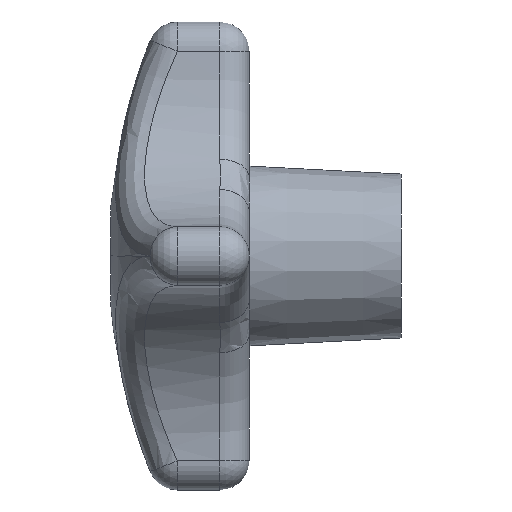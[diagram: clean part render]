
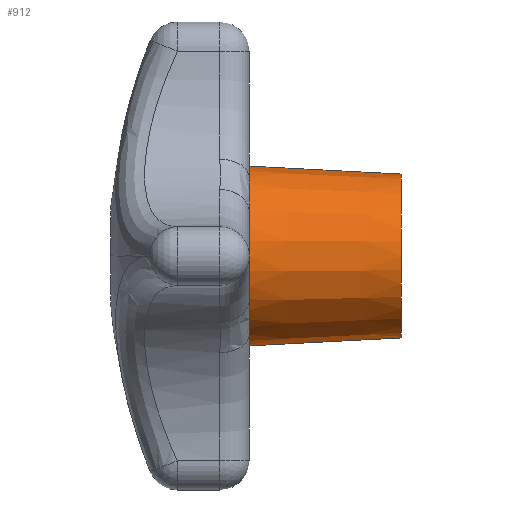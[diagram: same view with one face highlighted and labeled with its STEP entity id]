
A CAD part, left-side view. The second image highlights one B-rep face of the part: STEP entity #912.
In plain terms, the highlighted conical face has half-angle 3 degrees and reference radius 7 mm.
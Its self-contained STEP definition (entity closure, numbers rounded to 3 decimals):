
#368 = VERTEX_POINT ( 'NONE', #2799 ) ;
#379 = EDGE_CURVE ( 'NONE', #368, #514, #2792, .T. ) ;
#437 = EDGE_CURVE ( 'NONE', #927, #875, #2825, .T. ) ;
#438 = ORIENTED_EDGE ( 'NONE', *, *, #473, .T. ) ;
#440 = ORIENTED_EDGE ( 'NONE', *, *, #510, .T. ) ;
#448 = ORIENTED_EDGE ( 'NONE', *, *, #379, .F. ) ;
#452 = ORIENTED_EDGE ( 'NONE', *, *, #437, .F. ) ;
#456 = ORIENTED_EDGE ( 'NONE', *, *, #925, .F. ) ;
#458 = ORIENTED_EDGE ( 'NONE', *, *, #625, .F. ) ;
#459 = ORIENTED_EDGE ( 'NONE', *, *, #487, .F. ) ;
#473 = EDGE_CURVE ( 'NONE', #608, #610, #2856, .T. ) ;
#487 = EDGE_CURVE ( 'NONE', #866, #368, #2851, .T. ) ;
#510 = EDGE_CURVE ( 'NONE', #610, #514, #2888, .T. ) ;
#514 = VERTEX_POINT ( 'NONE', #2878 ) ;
#608 = VERTEX_POINT ( 'NONE', #3198 ) ;
#610 = VERTEX_POINT ( 'NONE', #3197 ) ;
#623 = VERTEX_POINT ( 'NONE', #3400 ) ;
#625 = EDGE_CURVE ( 'NONE', #608, #623, #3399, .T. ) ;
#866 = VERTEX_POINT ( 'NONE', #3691 ) ;
#875 = VERTEX_POINT ( 'NONE', #3690 ) ;
#912 = ADVANCED_FACE ( 'NONE', ( #3710 ), #3704, .T. ) ;
#913 = EDGE_LOOP ( 'NONE', ( #458, #438, #440, #448, #459, #456, #452, #1022 ) ) ;
#925 = EDGE_CURVE ( 'NONE', #875, #866, #3834, .T. ) ;
#927 = VERTEX_POINT ( 'NONE', #3829 ) ;
#935 = EDGE_CURVE ( 'NONE', #623, #927, #3815, .T. ) ;
#1022 = ORIENTED_EDGE ( 'NONE', *, *, #935, .F. ) ;
#2788 = DIRECTION ( 'NONE',  ( 0., 0., 1. ) ) ;
#2789 = DIRECTION ( 'NONE',  ( 0., 1., 0. ) ) ;
#2790 = CARTESIAN_POINT ( 'NONE',  ( 0., 0., 0. ) ) ;
#2791 = AXIS2_PLACEMENT_3D ( 'NONE', #2790, #2789, #2788 ) ;
#2792 = CIRCLE ( 'NONE', #2791, 7.681 ) ;
#2799 = CARTESIAN_POINT ( 'NONE',  ( -3.71, 0., 6.726 ) ) ;
#2822 = DIRECTION ( 'NONE',  ( 0., 0., 1. ) ) ;
#2823 = DIRECTION ( 'NONE',  ( 0., 1., 0. ) ) ;
#2824 = AXIS2_PLACEMENT_3D ( 'NONE', #2831, #2823, #2822 ) ;
#2825 = CIRCLE ( 'NONE', #2824, 7.681 ) ;
#2831 = CARTESIAN_POINT ( 'NONE',  ( 0., 0., 0. ) ) ;
#2847 = DIRECTION ( 'NONE',  ( 0., 0., 1. ) ) ;
#2848 = DIRECTION ( 'NONE',  ( 0., 1., 0. ) ) ;
#2849 = CARTESIAN_POINT ( 'NONE',  ( 0., 0., 0. ) ) ;
#2850 = AXIS2_PLACEMENT_3D ( 'NONE', #2849, #2848, #2847 ) ;
#2851 = CIRCLE ( 'NONE', #2850, 7.681 ) ;
#2852 = DIRECTION ( 'NONE',  ( 0., 0., 1. ) ) ;
#2853 = DIRECTION ( 'NONE',  ( 0., 1., 0. ) ) ;
#2854 = CARTESIAN_POINT ( 'NONE',  ( 0., -13., 0. ) ) ;
#2855 = AXIS2_PLACEMENT_3D ( 'NONE', #2854, #2853, #2852 ) ;
#2856 = CIRCLE ( 'NONE', #2855, 7. ) ;
#2878 = CARTESIAN_POINT ( 'NONE',  ( 0., 0., 7.681 ) ) ;
#2885 = DIRECTION ( 'NONE',  ( 0., 0.999, 0.052 ) ) ;
#2886 = VECTOR ( 'NONE', #2885, 1000. ) ;
#2887 = CARTESIAN_POINT ( 'NONE',  ( 0., -13., 7. ) ) ;
#2888 = LINE ( 'NONE', #2887, #2886 ) ;
#3197 = CARTESIAN_POINT ( 'NONE',  ( 0., -13., 7. ) ) ;
#3198 = CARTESIAN_POINT ( 'NONE',  ( 0., -13., -7. ) ) ;
#3391 = DIRECTION ( 'NONE',  ( 0., 0.999, -0.052 ) ) ;
#3392 = VECTOR ( 'NONE', #3391, 1000. ) ;
#3393 = CARTESIAN_POINT ( 'NONE',  ( 0., -13., -7. ) ) ;
#3399 = LINE ( 'NONE', #3393, #3392 ) ;
#3400 = CARTESIAN_POINT ( 'NONE',  ( 0., 0., -7.681 ) ) ;
#3690 = CARTESIAN_POINT ( 'NONE',  ( -6.726, 0., -3.71 ) ) ;
#3691 = CARTESIAN_POINT ( 'NONE',  ( -6.726, 0., 3.71 ) ) ;
#3703 = CARTESIAN_POINT ( 'NONE',  ( 0., -13., 0. ) ) ;
#3704 = CONICAL_SURFACE ( 'NONE', #3760, 7., 0.052 ) ;
#3710 = FACE_OUTER_BOUND ( 'NONE', #913, .T. ) ;
#3758 = DIRECTION ( 'NONE',  ( 0., 0., 1. ) ) ;
#3759 = DIRECTION ( 'NONE',  ( 0., 1., 0. ) ) ;
#3760 = AXIS2_PLACEMENT_3D ( 'NONE', #3703, #3759, #3758 ) ;
#3812 = DIRECTION ( 'NONE',  ( 0., 0., 1. ) ) ;
#3813 = DIRECTION ( 'NONE',  ( 0., 1., 0. ) ) ;
#3814 = AXIS2_PLACEMENT_3D ( 'NONE', #3819, #3813, #3812 ) ;
#3815 = CIRCLE ( 'NONE', #3814, 7.681 ) ;
#3819 = CARTESIAN_POINT ( 'NONE',  ( 0., 0., 0. ) ) ;
#3829 = CARTESIAN_POINT ( 'NONE',  ( -3.71, 0., -6.726 ) ) ;
#3830 = DIRECTION ( 'NONE',  ( 0., 0., 1. ) ) ;
#3831 = DIRECTION ( 'NONE',  ( 0., 1., 0. ) ) ;
#3832 = CARTESIAN_POINT ( 'NONE',  ( 0., 0., 0. ) ) ;
#3833 = AXIS2_PLACEMENT_3D ( 'NONE', #3832, #3831, #3830 ) ;
#3834 = CIRCLE ( 'NONE', #3833, 7.681 ) ;
